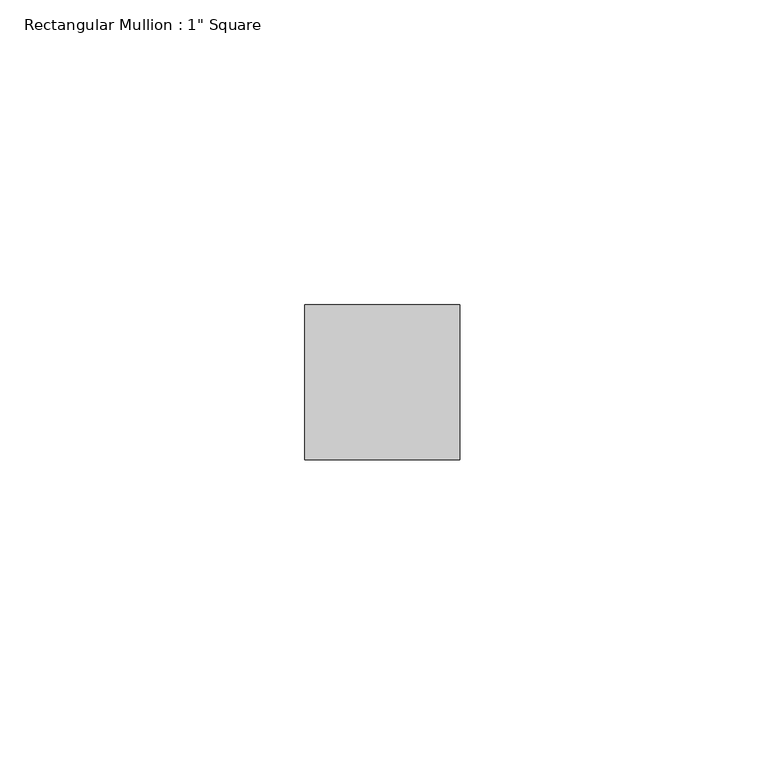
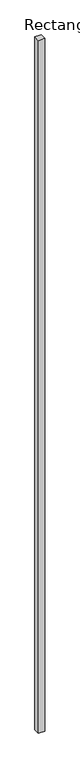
"""IFC4 building model written with IfcOpenShell, lengths in millimetres: member geometry."""

import ifcopenshell
import ifcopenshell.guid

model = None  # the IFC model being written
_history = None  # IfcOwnerHistory: only IFC2X3 demands one
_inside = {}  # id of a spatial element -> (the spatial element, [elements in it])
_under = {}  # id of a project, library or spatial element -> (it, [spatial elements below it])
_declared = {}  # id of a project -> (the project, [libraries it declares])
_typed = {}  # id of a type object -> (the type object, [elements of that type])
_made_of = {}  # id of a material, layer set ... -> (it, [elements and type objects made of it])


def new_model(schema):
    """Start an empty IFC model of exactly this schema.

    Asked for "IFC4X3", IfcOpenShell would pick the latest addendum, in which some entities
    have other attributes; the version numbers below select the first issue.
    IFC2X3 requires an IfcOwnerHistory on every rooted entity: one is made here for all.
    """
    global model, _history
    if schema == "IFC4X3":
        model = ifcopenshell.file(schema_version=(4, 3, 0, 0))
    else:
        model = ifcopenshell.file(schema=schema)
    _inside.clear()
    _under.clear()
    _declared.clear()
    _typed.clear()
    _made_of.clear()
    _history = None
    if model.schema == "IFC2X3":
        org = make("IfcOrganization", Name="unknown")
        user = make(
            "IfcPersonAndOrganization",
            ThePerson=make("IfcPerson", FamilyName="unknown"),
            TheOrganization=org,
        )
        app = make(
            "IfcApplication",
            ApplicationDeveloper=org,
            Version="unknown",
            ApplicationFullName="unknown",
            ApplicationIdentifier="unknown",
        )
        _history = make(
            "IfcOwnerHistory",
            OwningUser=user,
            OwningApplication=app,
            ChangeAction="ADDED",
            CreationDate=0,
        )
    return model


def make(cls, **values):
    """One entity of the class cls with the attributes given. An attribute that is None is left unset."""
    return model.create_entity(
        cls, **{name: value for name, value in values.items() if value is not None}
    )


def rooted(cls, **values):
    """An entity with a GlobalId (a new one), such as an element, a storey or a relation."""
    return make(cls, GlobalId=ifcopenshell.guid.new(), OwnerHistory=_history, **values)


def si_unit(unit_type, name, prefix=None):
    """IfcSIUnit, for example si_unit("LENGTHUNIT", "METRE", prefix="MILLI")."""
    return make("IfcSIUnit", UnitType=unit_type, Prefix=prefix, Name=name)


def assignment(units):
    """IfcUnitAssignment: the units of a project."""
    return None if units is None else make("IfcUnitAssignment", Units=units)


def point(xyz):
    """IfcCartesianPoint."""
    return None if xyz is None else make("IfcCartesianPoint", Coordinates=xyz)


def direction(xyz):
    """IfcDirection."""
    return None if xyz is None else make("IfcDirection", DirectionRatios=xyz)


def frame(location, z_axis=None, x_axis=None):
    """IfcAxis2Placement3D, a coordinate frame: its origin and axes. An axis left out is left unset."""
    return make(
        "IfcAxis2Placement3D",
        Location=point(location),
        Axis=direction(z_axis),
        RefDirection=direction(x_axis),
    )


def origin():
    """The frame at (0, 0, 0) with its axes left unset."""
    return frame((0.0, 0.0, 0.0))


def place(relative_to, where):
    """IfcLocalPlacement: puts the frame where relative to a parent placement (None: the world)."""
    return make(
        "IfcLocalPlacement", PlacementRelTo=relative_to, RelativePlacement=where
    )


def context(
    kind, dimensions, precision=None, world=None, true_north=None, identifier=None
):
    """IfcGeometricRepresentationContext, for example the 3D "Model" context."""
    return make(
        "IfcGeometricRepresentationContext",
        ContextIdentifier=identifier,
        ContextType=kind,
        CoordinateSpaceDimension=dimensions,
        Precision=precision,
        WorldCoordinateSystem=world,
        TrueNorth=true_north,
    )


def project(units=None, contexts=None):
    """IfcProject with its units and contexts."""
    return rooted(
        "IfcProject",
        Name="project",
        RepresentationContexts=contexts,
        UnitsInContext=assignment(units),
    )


def spatial(cls, under=None, at=None, **own):
    """A site, building, storey or space (cls), placed at a placement, below another one or the project."""
    s = rooted(cls, ObjectPlacement=at, **own)
    if under is not None:
        _under.setdefault(under.id(), (under, []))[1].append(s)
    return s


def polyline(points):
    """IfcPolyline through the points."""
    return make("IfcPolyline", Points=[point(p) for p in points])


def outline(outer, holes=None, kind="AREA"):
    """IfcArbitraryClosedProfileDef: a profile drawn as a closed curve; with holes, ...WithVoids."""
    if holes is None:
        return make("IfcArbitraryClosedProfileDef", ProfileType=kind, OuterCurve=outer)
    return make(
        "IfcArbitraryProfileDefWithVoids",
        ProfileType=kind,
        OuterCurve=outer,
        InnerCurves=holes,
    )


def extrude(swept, where, along, depth):
    """IfcExtrudedAreaSolid: the profile swept, set in the frame where, extruded along a direction by depth."""
    return make(
        "IfcExtrudedAreaSolid",
        SweptArea=swept,
        Position=where,
        ExtrudedDirection=direction(along),
        Depth=depth,
    )


def shape(context_of_items, identifier, shape_type, items):
    """IfcShapeRepresentation: the items that make up one representation, for example the "Body"."""
    return make(
        "IfcShapeRepresentation",
        ContextOfItems=context_of_items,
        RepresentationIdentifier=identifier,
        RepresentationType=shape_type,
        Items=items,
    )


def source(mapping_origin, context_of_items, identifier, shape_type, items):
    """IfcRepresentationMap: a shape defined once, which mapped items show again and again."""
    return make(
        "IfcRepresentationMap",
        MappingOrigin=mapping_origin,
        MappedRepresentation=shape(context_of_items, identifier, shape_type, items),
    )


def transform(
    local_origin,
    x_axis=None,
    y_axis=None,
    z_axis=None,
    scale=None,
    scale2=None,
    scale3=None,
    uniform=True,
):
    """IfcCartesianTransformationOperator3D, or its non-uniform kind. x_axis, y_axis, z_axis: its Axis1, 2, 3."""
    if uniform:
        return make(
            "IfcCartesianTransformationOperator3D",
            Axis1=direction(x_axis),
            Axis2=direction(y_axis),
            LocalOrigin=point(local_origin),
            Scale=scale,
            Axis3=direction(z_axis),
        )
    return make(
        "IfcCartesianTransformationOperator3DnonUniform",
        Axis1=direction(x_axis),
        Axis2=direction(y_axis),
        LocalOrigin=point(local_origin),
        Scale=scale,
        Axis3=direction(z_axis),
        Scale2=scale2,
        Scale3=scale3,
    )


def mapped(mapping_source, mapping_target):
    """IfcMappedItem: shows the shape of a source again, moved by a transform."""
    return make(
        "IfcMappedItem", MappingSource=mapping_source, MappingTarget=mapping_target
    )


def made_of(thing, what):
    """Note that an element or type object is made of a material, layer set ...; save() writes the relation."""
    if what is not None:
        _made_of.setdefault(what.id(), (what, []))[1].append(thing)
    return thing


def element(
    cls,
    number,
    at=None,
    inside=None,
    cuts=None,
    type_object=None,
    material=None,
    context=None,
    identifier="Body",
    shape_type=None,
    held_by="IfcProductDefinitionShape",
    body=None,
    shapes=None,
    **own,
):
    """One element of the class cls, such as IfcWall. Its Tag is "e" and its number.

    at: its placement. inside: the storey or other place that contains it. cuts: it is an
    opening in that element (IfcRelVoidsElement). A single representation is given by context,
    identifier, shape_type and body (its items); several are given by shapes. held_by: the class
    of the entity that holds the representations. save() writes the other relations.
    """
    e = rooted(cls, Tag="e%d" % number, ObjectPlacement=at, **own)
    if body is not None:
        shapes = [shape(context, identifier, shape_type, body)]
    if shapes is not None:
        e.Representation = make(held_by, Representations=shapes)
    if inside is not None:
        _inside.setdefault(inside.id(), (inside, []))[1].append(e)
    if cuts is not None:
        rooted(
            "IfcRelVoidsElement", RelatingBuildingElement=cuts, RelatedOpeningElement=e
        )
    if type_object is not None:
        _typed.setdefault(type_object.id(), (type_object, []))[1].append(e)
    return made_of(e, material)


def aggregate(whole, parts):
    """IfcRelAggregates: a whole, such as a stair, and the parts it consists of."""
    return rooted("IfcRelAggregates", RelatingObject=whole, RelatedObjects=parts)


def save(model, path):
    """Write the relations noted so far, then the file.

    IfcRelAggregates (storeys below a building ...), IfcRelContainedInSpatialStructure (elements
    in a storey), IfcRelDefinesByType, IfcRelAssociatesMaterial and IfcRelDeclares: one each for
    every whole, place, type object, material and project.
    """
    for whole, parts in _under.values():
        aggregate(whole, parts)
    for where, things in _inside.values():
        rooted(
            "IfcRelContainedInSpatialStructure",
            RelatedElements=things,
            RelatingStructure=where,
        )
    for kind, things in _typed.values():
        rooted("IfcRelDefinesByType", RelatedObjects=things, RelatingType=kind)
    for what, things in _made_of.values():
        rooted("IfcRelAssociatesMaterial", RelatedObjects=things, RelatingMaterial=what)
    for by, libraries in _declared.values():
        rooted("IfcRelDeclares", RelatingContext=by, RelatedDefinitions=libraries)
    model.write(path)


def member_1e756ab6(model_context):
    return source(origin(), model_context, "Body", "SweptSolid", [
        extrude(outline(polyline([(0.0, 12.7), (0.0, -12.7), (-25.4, -12.7), (-25.4, 12.7), (0.0, 12.7)])), frame((0.0, 0.0, -2991.9660567), z_axis=(0.0, 0.0, 1.0), x_axis=(1.0, 0.0, 0.0)), (0.0, 0.0, 1.0), 2991.9660567),
    ])


if __name__ == "__main__":
    model = new_model("IFC4")
    model_context = context("Model", 3, world=origin())
    ifc_project = project(units=[si_unit("LENGTHUNIT", "METRE", prefix="MILLI")], contexts=[model_context])
    site = spatial("IfcSite", under=ifc_project)
    building = spatial("IfcBuilding", under=site)
    placement = place(None, origin())
    member_shape = member_1e756ab6(model_context)
    element("IfcMember", 1, ObjectType="Rectangular Mullion : 1\" Square", at=placement, inside=building, context=model_context, shape_type="MappedRepresentation", body=[
        mapped(member_shape, transform((0.0, 0.0, 0.0), x_axis=(1.0, 0.0, 0.0), y_axis=(0.0, 1.0, 0.0), z_axis=(0.0, 0.0, 1.0))),
    ])
    save(model, "model.ifc")
